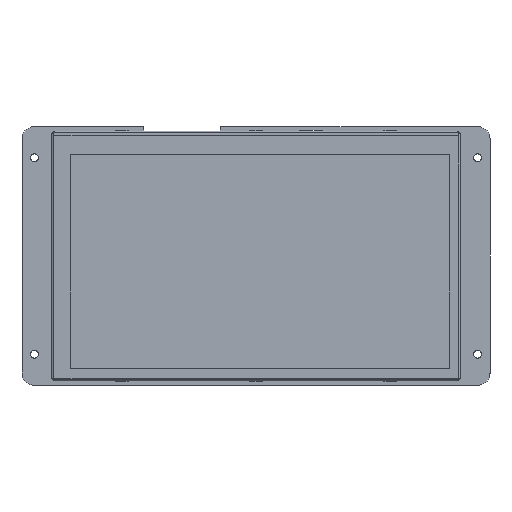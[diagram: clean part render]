
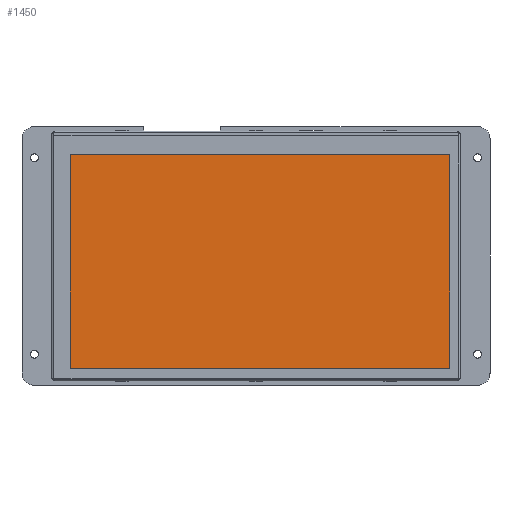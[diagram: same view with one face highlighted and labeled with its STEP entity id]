
A CAD part, front view. The second image highlights one B-rep face of the part: STEP entity #1450.
In plain terms, the highlighted planar face has unit normal (0, -1, 0) as drawn and (0, 1, 0) by its records, which use the part's own axes.
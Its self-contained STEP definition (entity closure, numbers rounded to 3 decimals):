
#128 = AXIS2_PLACEMENT_3D ( 'NONE', #14663, #14730, #14782 ) ;
#354 = CARTESIAN_POINT ( 'NONE',  ( 3.62, 1.4, -7.59 ) ) ;
#397 = CARTESIAN_POINT ( 'NONE',  ( 3.62, 1.4, -7.59 ) ) ;
#1189 = DIRECTION ( 'NONE',  ( 0., 0., -1. ) ) ;
#1450 = ADVANCED_FACE ( 'NONE', ( #10384 ), #14266, .F. ) ;
#1616 = VERTEX_POINT ( 'NONE', #6340 ) ;
#1709 = EDGE_LOOP ( 'NONE', ( #4040, #6196, #8577, #14073 ) ) ;
#1751 = DIRECTION ( 'NONE',  ( 1., 0., 0. ) ) ;
#2048 = CARTESIAN_POINT ( 'NONE',  ( 158.1, 1.4, -94.57 ) ) ;
#2482 = VECTOR ( 'NONE', #11877, 1000. ) ;
#3560 = LINE ( 'NONE', #397, #17638 ) ;
#3695 = VERTEX_POINT ( 'NONE', #354 ) ;
#3781 = LINE ( 'NONE', #3892, #11139 ) ;
#3817 = EDGE_CURVE ( 'NONE', #1616, #3695, #6094, .T. ) ;
#3825 = DIRECTION ( 'NONE',  ( -1., 0., 0. ) ) ;
#3892 = CARTESIAN_POINT ( 'NONE',  ( 3.62, 1.4, -94.57 ) ) ;
#4040 = ORIENTED_EDGE ( 'NONE', *, *, #6139, .T. ) ;
#4517 = CARTESIAN_POINT ( 'NONE',  ( 3.62, 1.4, -94.57 ) ) ;
#6094 = LINE ( 'NONE', #4517, #2482 ) ;
#6139 = EDGE_CURVE ( 'NONE', #9088, #1616, #3781, .T. ) ;
#6196 = ORIENTED_EDGE ( 'NONE', *, *, #3817, .T. ) ;
#6340 = CARTESIAN_POINT ( 'NONE',  ( 3.62, 1.4, -94.57 ) ) ;
#6810 = LINE ( 'NONE', #16159, #14060 ) ;
#7618 = VERTEX_POINT ( 'NONE', #14405 ) ;
#8577 = ORIENTED_EDGE ( 'NONE', *, *, #15850, .T. ) ;
#9088 = VERTEX_POINT ( 'NONE', #2048 ) ;
#10384 = FACE_OUTER_BOUND ( 'NONE', #1709, .T. ) ;
#11139 = VECTOR ( 'NONE', #3825, 1000. ) ;
#11877 = DIRECTION ( 'NONE',  ( 0., 0., 1. ) ) ;
#13821 = EDGE_CURVE ( 'NONE', #7618, #9088, #6810, .T. ) ;
#14060 = VECTOR ( 'NONE', #1189, 1000. ) ;
#14073 = ORIENTED_EDGE ( 'NONE', *, *, #13821, .T. ) ;
#14266 = PLANE ( 'NONE',  #128 ) ;
#14405 = CARTESIAN_POINT ( 'NONE',  ( 158.1, 1.4, -7.59 ) ) ;
#14663 = CARTESIAN_POINT ( 'NONE',  ( 0., 1.4, 0. ) ) ;
#14730 = DIRECTION ( 'NONE',  ( 0., -1., 0. ) ) ;
#14782 = DIRECTION ( 'NONE',  ( 0., 0., -1. ) ) ;
#15850 = EDGE_CURVE ( 'NONE', #3695, #7618, #3560, .T. ) ;
#16159 = CARTESIAN_POINT ( 'NONE',  ( 158.1, 1.4, -94.57 ) ) ;
#17638 = VECTOR ( 'NONE', #1751, 1000. ) ;
